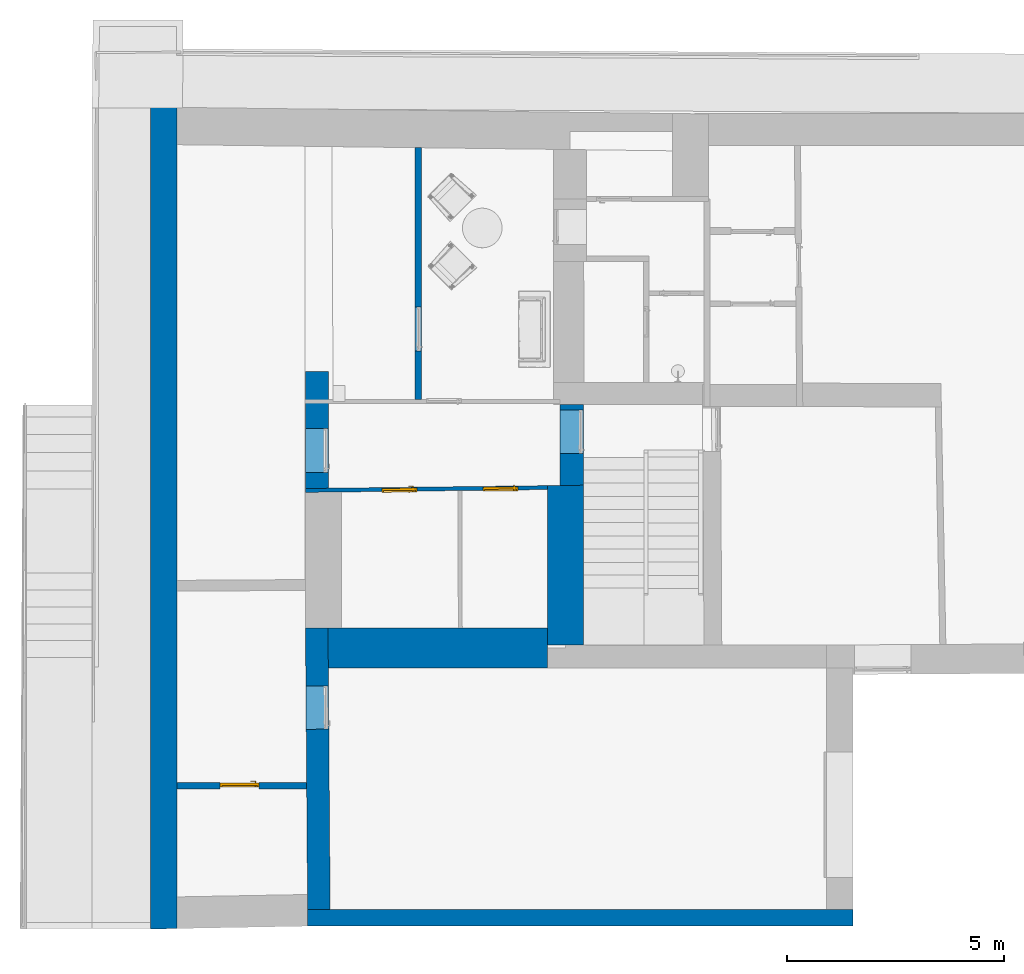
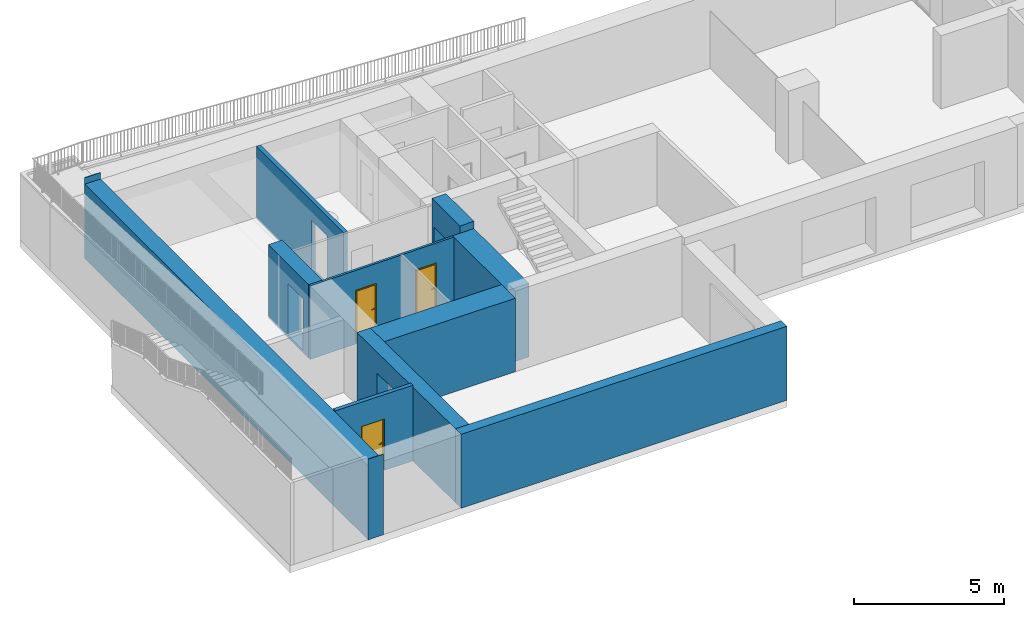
# One storey, part 2 of 17: 10 walls, 3 doors, 9 openings.
"""IFC2X3 building model written with IfcOpenShell, lengths in millimetres."""

import ifcopenshell
import ifcopenshell.guid

model = None  # the IFC model being written
_history = None  # IfcOwnerHistory: only IFC2X3 demands one
_inside = {}  # id of a spatial element -> (the spatial element, [elements in it])
_under = {}  # id of a project, library or spatial element -> (it, [spatial elements below it])
_declared = {}  # id of a project -> (the project, [libraries it declares])
_typed = {}  # id of a type object -> (the type object, [elements of that type])
_made_of = {}  # id of a material, layer set ... -> (it, [elements and type objects made of it])


def new_model(schema):
    """Start an empty IFC model of exactly this schema.

    Asked for "IFC4X3", IfcOpenShell would pick the latest addendum, in which some entities
    have other attributes; the version numbers below select the first issue.
    IFC2X3 requires an IfcOwnerHistory on every rooted entity: one is made here for all.
    """
    global model, _history
    if schema == "IFC4X3":
        model = ifcopenshell.file(schema_version=(4, 3, 0, 0))
    else:
        model = ifcopenshell.file(schema=schema)
    _inside.clear()
    _under.clear()
    _declared.clear()
    _typed.clear()
    _made_of.clear()
    _history = None
    if model.schema == "IFC2X3":
        org = make("IfcOrganization", Name="unknown")
        user = make(
            "IfcPersonAndOrganization",
            ThePerson=make("IfcPerson", FamilyName="unknown"),
            TheOrganization=org,
        )
        app = make(
            "IfcApplication",
            ApplicationDeveloper=org,
            Version="unknown",
            ApplicationFullName="unknown",
            ApplicationIdentifier="unknown",
        )
        _history = make(
            "IfcOwnerHistory",
            OwningUser=user,
            OwningApplication=app,
            ChangeAction="ADDED",
            CreationDate=0,
        )
    return model


def make(cls, **values):
    """One entity of the class cls with the attributes given. An attribute that is None is left unset."""
    return model.create_entity(
        cls, **{name: value for name, value in values.items() if value is not None}
    )


def entity(cls, *values):
    """Any entity or typed value of the class cls, its attributes in the order of the schema. None: left unset."""
    e = model.create_entity(cls)
    for i, value in enumerate(values):
        if value is not None:
            e[i] = value
    return e


def rooted(cls, **values):
    """An entity with a GlobalId (a new one), such as an element, a storey or a relation."""
    return make(cls, GlobalId=ifcopenshell.guid.new(), OwnerHistory=_history, **values)


def si_unit(unit_type, name, prefix=None):
    """IfcSIUnit, for example si_unit("LENGTHUNIT", "METRE", prefix="MILLI")."""
    return make("IfcSIUnit", UnitType=unit_type, Prefix=prefix, Name=name)


def converted_unit(unit_type, name, factor, base, dimensions=None, offset=None):
    """IfcConversionBasedUnit, such as the inch: factor (a typed value) times the base unit."""
    return make(
        "IfcConversionBasedUnit"
        if offset is None
        else "IfcConversionBasedUnitWithOffset",
        ConversionOffset=offset,
        Dimensions=None
        if dimensions is None
        else entity("IfcDimensionalExponents", *dimensions),
        UnitType=unit_type,
        Name=name,
        ConversionFactor=make(
            "IfcMeasureWithUnit", ValueComponent=factor, UnitComponent=base
        ),
    )


def derived_unit(unit_type, elements):
    """IfcDerivedUnit: a product of units, each with its exponent."""
    return make(
        "IfcDerivedUnit",
        Elements=[
            make("IfcDerivedUnitElement", Unit=unit, Exponent=power)
            for unit, power in elements
        ],
        UnitType=unit_type,
    )


def assignment(units):
    """IfcUnitAssignment: the units of a project."""
    return None if units is None else make("IfcUnitAssignment", Units=units)


def point(xyz):
    """IfcCartesianPoint."""
    return None if xyz is None else make("IfcCartesianPoint", Coordinates=xyz)


def direction(xyz):
    """IfcDirection."""
    return None if xyz is None else make("IfcDirection", DirectionRatios=xyz)


def frame(location, z_axis=None, x_axis=None):
    """IfcAxis2Placement3D, a coordinate frame: its origin and axes. An axis left out is left unset."""
    return make(
        "IfcAxis2Placement3D",
        Location=point(location),
        Axis=direction(z_axis),
        RefDirection=direction(x_axis),
    )


def frame_2d(location, x_axis=None):
    """IfcAxis2Placement2D, a coordinate frame in the plane: its origin and x axis."""
    return make(
        "IfcAxis2Placement2D", Location=point(location), RefDirection=direction(x_axis)
    )


def origin():
    """The frame at (0, 0, 0) with its axes left unset."""
    return frame((0.0, 0.0, 0.0))


def place(relative_to, where):
    """IfcLocalPlacement: puts the frame where relative to a parent placement (None: the world)."""
    return make(
        "IfcLocalPlacement", PlacementRelTo=relative_to, RelativePlacement=where
    )


def context(
    kind, dimensions, precision=None, world=None, true_north=None, identifier=None
):
    """IfcGeometricRepresentationContext, for example the 3D "Model" context."""
    return make(
        "IfcGeometricRepresentationContext",
        ContextIdentifier=identifier,
        ContextType=kind,
        CoordinateSpaceDimension=dimensions,
        Precision=precision,
        WorldCoordinateSystem=world,
        TrueNorth=true_north,
    )


def subcontext(parent, identifier, kind, view, scale=None):
    """IfcGeometricRepresentationSubContext, for example "Body" below "Model"."""
    return make(
        "IfcGeometricRepresentationSubContext",
        ContextIdentifier=identifier,
        ContextType=kind,
        ParentContext=parent,
        TargetScale=scale,
        TargetView=view,
    )


def project(units=None, contexts=None):
    """IfcProject with its units and contexts."""
    return rooted(
        "IfcProject",
        Name="project",
        RepresentationContexts=contexts,
        UnitsInContext=assignment(units),
    )


def spatial(cls, under=None, at=None, **own):
    """A site, building, storey or space (cls), placed at a placement, below another one or the project."""
    s = rooted(cls, ObjectPlacement=at, **own)
    if under is not None:
        _under.setdefault(under.id(), (under, []))[1].append(s)
    return s


def polyline(points):
    """IfcPolyline through the points."""
    return make("IfcPolyline", Points=[point(p) for p in points])


def profile(cls, at=None, kind="AREA", **sizes):
    """A parametric profile (cls). Its sizes go by their IFC names, for example OverallWidth=200.0."""
    return make(cls, ProfileType=kind, Position=at, **sizes)


def rectangle(**sizes):
    """IfcRectangleProfileDef."""
    return profile("IfcRectangleProfileDef", **sizes)


def outline(outer, holes=None, kind="AREA"):
    """IfcArbitraryClosedProfileDef: a profile drawn as a closed curve; with holes, ...WithVoids."""
    if holes is None:
        return make("IfcArbitraryClosedProfileDef", ProfileType=kind, OuterCurve=outer)
    return make(
        "IfcArbitraryProfileDefWithVoids",
        ProfileType=kind,
        OuterCurve=outer,
        InnerCurves=holes,
    )


def extrude(swept, where, along, depth):
    """IfcExtrudedAreaSolid: the profile swept, set in the frame where, extruded along a direction by depth."""
    return make(
        "IfcExtrudedAreaSolid",
        SweptArea=swept,
        Position=where,
        ExtrudedDirection=direction(along),
        Depth=depth,
    )


def clip(a, b, op="DIFFERENCE"):
    """IfcBooleanClippingResult: the solid a cut by the half space b."""
    return make(
        "IfcBooleanClippingResult", Operator=op, FirstOperand=a, SecondOperand=b
    )


def bounded_halfspace(plane, agree, where, boundary):
    """IfcPolygonalBoundedHalfSpace: a half space limited to a polygon's prism."""
    return make(
        "IfcPolygonalBoundedHalfSpace",
        BaseSurface=make("IfcPlane", Position=plane),
        AgreementFlag=agree,
        Position=where,
        PolygonalBoundary=boundary,
    )


def faces_of(points, faces, orient=None, outer=None):
    """IfcFace entities. A face is a list of loops; a loop is a list of indices into points, from 0.

    orient and outer hold one flag for each loop. By default every Orientation is true, the
    first loop of a face is its IfcFaceOuterBound and the others are IfcFaceBound.
    """
    made = []
    for i, loops in enumerate(faces):
        bounds = []
        for j, loop in enumerate(loops):
            is_outer = j == 0 if outer is None else outer[i][j]
            bounds.append(
                make(
                    "IfcFaceOuterBound" if is_outer else "IfcFaceBound",
                    Bound=make("IfcPolyLoop", Polygon=[points[k] for k in loop]),
                    Orientation=True if orient is None else orient[i][j],
                )
            )
        made.append(make("IfcFace", Bounds=bounds))
    return made


def faceted_brep(points, faces, orient=None, outer=None, voids=None):
    """IfcFacetedBrep: a solid bounded by flat faces; with voids (closed shells), ...WithVoids."""
    shared = [point(p) for p in points]
    hull = make("IfcClosedShell", CfsFaces=faces_of(shared, faces, orient, outer))
    if voids is None:
        return make("IfcFacetedBrep", Outer=hull)
    return make(
        "IfcFacetedBrepWithVoids",
        Outer=hull,
        Voids=[
            make(cls, CfsFaces=faces_of(shared, fs, o, b)) for cls, fs, o, b in voids
        ],
    )


def shape(context_of_items, identifier, shape_type, items):
    """IfcShapeRepresentation: the items that make up one representation, for example the "Body"."""
    return make(
        "IfcShapeRepresentation",
        ContextOfItems=context_of_items,
        RepresentationIdentifier=identifier,
        RepresentationType=shape_type,
        Items=items,
    )


def source(mapping_origin, context_of_items, identifier, shape_type, items):
    """IfcRepresentationMap: a shape defined once, which mapped items show again and again."""
    return make(
        "IfcRepresentationMap",
        MappingOrigin=mapping_origin,
        MappedRepresentation=shape(context_of_items, identifier, shape_type, items),
    )


def transform(
    local_origin,
    x_axis=None,
    y_axis=None,
    z_axis=None,
    scale=None,
    scale2=None,
    scale3=None,
    uniform=True,
):
    """IfcCartesianTransformationOperator3D, or its non-uniform kind. x_axis, y_axis, z_axis: its Axis1, 2, 3."""
    if uniform:
        return make(
            "IfcCartesianTransformationOperator3D",
            Axis1=direction(x_axis),
            Axis2=direction(y_axis),
            LocalOrigin=point(local_origin),
            Scale=scale,
            Axis3=direction(z_axis),
        )
    return make(
        "IfcCartesianTransformationOperator3DnonUniform",
        Axis1=direction(x_axis),
        Axis2=direction(y_axis),
        LocalOrigin=point(local_origin),
        Scale=scale,
        Axis3=direction(z_axis),
        Scale2=scale2,
        Scale3=scale3,
    )


def mapped(mapping_source, mapping_target):
    """IfcMappedItem: shows the shape of a source again, moved by a transform."""
    return make(
        "IfcMappedItem", MappingSource=mapping_source, MappingTarget=mapping_target
    )


def material(Name=None, Category=None):
    """IfcMaterial."""
    return make("IfcMaterial", Name=Name, Category=Category)


def material_list(materials):
    """IfcMaterialList."""
    return make("IfcMaterialList", Materials=materials)


def layer(
    of_material, thickness, ventilated=None, Name=None, Category=None, Priority=None
):
    """IfcMaterialLayer: one layer of a wall or slab, of a material (None: an air gap)."""
    return make(
        "IfcMaterialLayer",
        Material=of_material,
        LayerThickness=thickness,
        IsVentilated=ventilated,
        Name=Name,
        Category=Category,
        Priority=Priority,
    )


def layer_set(layers, Name=None):
    """IfcMaterialLayerSet."""
    return make("IfcMaterialLayerSet", MaterialLayers=layers, LayerSetName=Name)


def layer_usage(for_layer_set, set_direction, sense, offset, extent=None):
    """IfcMaterialLayerSetUsage: how a layer set lies in its element."""
    return make(
        "IfcMaterialLayerSetUsage",
        ForLayerSet=for_layer_set,
        LayerSetDirection=set_direction,
        DirectionSense=sense,
        OffsetFromReferenceLine=offset,
        ReferenceExtent=extent,
    )


def made_of(thing, what):
    """Note that an element or type object is made of a material, layer set ...; save() writes the relation."""
    if what is not None:
        _made_of.setdefault(what.id(), (what, []))[1].append(thing)
    return thing


def type_object(cls, material=None, **own):
    """A type object (cls), such as IfcWallType, which elements share."""
    return made_of(rooted(cls, **own), material)


def type_shapes(of_type, sources):
    """Give a type object the sources (RepresentationMaps) that its elements show as mapped items."""
    of_type.RepresentationMaps = sources


def element(
    cls,
    number,
    at=None,
    inside=None,
    cuts=None,
    type_object=None,
    material=None,
    context=None,
    identifier="Body",
    shape_type=None,
    held_by="IfcProductDefinitionShape",
    body=None,
    shapes=None,
    **own,
):
    """One element of the class cls, such as IfcWall. Its Tag is "e" and its number.

    at: its placement. inside: the storey or other place that contains it. cuts: it is an
    opening in that element (IfcRelVoidsElement). A single representation is given by context,
    identifier, shape_type and body (its items); several are given by shapes. held_by: the class
    of the entity that holds the representations. save() writes the other relations.
    """
    e = rooted(cls, Tag="e%d" % number, ObjectPlacement=at, **own)
    if body is not None:
        shapes = [shape(context, identifier, shape_type, body)]
    if shapes is not None:
        e.Representation = make(held_by, Representations=shapes)
    if inside is not None:
        _inside.setdefault(inside.id(), (inside, []))[1].append(e)
    if cuts is not None:
        rooted(
            "IfcRelVoidsElement", RelatingBuildingElement=cuts, RelatedOpeningElement=e
        )
    if type_object is not None:
        _typed.setdefault(type_object.id(), (type_object, []))[1].append(e)
    return made_of(e, material)


def fill(opening, filler):
    """IfcRelFillsElement: the door or window that sits in an opening."""
    return rooted(
        "IfcRelFillsElement",
        RelatingOpeningElement=opening,
        RelatedBuildingElement=filler,
    )


def aggregate(whole, parts):
    """IfcRelAggregates: a whole, such as a stair, and the parts it consists of."""
    return rooted("IfcRelAggregates", RelatingObject=whole, RelatedObjects=parts)


def save(model, path):
    """Write the relations noted so far, then the file.

    IfcRelAggregates (storeys below a building ...), IfcRelContainedInSpatialStructure (elements
    in a storey), IfcRelDefinesByType, IfcRelAssociatesMaterial and IfcRelDeclares: one each for
    every whole, place, type object, material and project.
    """
    for whole, parts in _under.values():
        aggregate(whole, parts)
    for where, things in _inside.values():
        rooted(
            "IfcRelContainedInSpatialStructure",
            RelatedElements=things,
            RelatingStructure=where,
        )
    for kind, things in _typed.values():
        rooted("IfcRelDefinesByType", RelatedObjects=things, RelatingType=kind)
    for what, things in _made_of.values():
        rooted("IfcRelAssociatesMaterial", RelatedObjects=things, RelatingMaterial=what)
    for by, libraries in _declared.values():
        rooted("IfcRelDeclares", RelatingContext=by, RelatedDefinitions=libraries)
    model.write(path)


model = new_model("IFC2X3")

# Units and contexts
model_context = context("Model", 3, precision=0.01, world=origin(), true_north=direction((6.12303176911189e-17, 1.0)))
context_of_model = context(None, 3, precision=0.01, world=origin(), true_north=direction((6.12303176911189e-17, 1.0)))
body_context = subcontext(model_context, "Body", "Model", "MODEL_VIEW")
ifc_project = project(units=[si_unit("LENGTHUNIT", "METRE", prefix="MILLI"), si_unit("AREAUNIT", "SQUARE_METRE"), si_unit("VOLUMEUNIT", "CUBIC_METRE"), converted_unit("PLANEANGLEUNIT", "DEGREE", entity("IfcRatioMeasure", 0.0174532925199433), si_unit("PLANEANGLEUNIT", "RADIAN"), dimensions=[0, 0, 0, 0, 0, 0, 0]), si_unit("MASSUNIT", "GRAM", prefix="KILO"), derived_unit("MASSDENSITYUNIT", [(si_unit("MASSUNIT", "GRAM", prefix="KILO"), 1), (si_unit("LENGTHUNIT", "METRE"), -3)]), si_unit("TIMEUNIT", "SECOND"), si_unit("FREQUENCYUNIT", "HERTZ"), si_unit("THERMODYNAMICTEMPERATUREUNIT", "DEGREE_CELSIUS"), derived_unit("THERMALTRANSMITTANCEUNIT", [(si_unit("MASSUNIT", "GRAM", prefix="KILO"), 1), (si_unit("THERMODYNAMICTEMPERATUREUNIT", "KELVIN"), -1), (si_unit("TIMEUNIT", "SECOND"), -3)]), derived_unit("VOLUMETRICFLOWRATEUNIT", [(si_unit("LENGTHUNIT", "METRE"), 3), (si_unit("TIMEUNIT", "SECOND"), -1)]), si_unit("ELECTRICCURRENTUNIT", "AMPERE"), si_unit("ELECTRICVOLTAGEUNIT", "VOLT"), si_unit("POWERUNIT", "WATT"), si_unit("FORCEUNIT", "NEWTON", prefix="KILO"), si_unit("ILLUMINANCEUNIT", "LUX"), si_unit("LUMINOUSFLUXUNIT", "LUMEN"), si_unit("LUMINOUSINTENSITYUNIT", "CANDELA"), derived_unit("USERDEFINED", [(si_unit("MASSUNIT", "GRAM", prefix="KILO"), -1), (si_unit("LENGTHUNIT", "METRE"), -2), (si_unit("TIMEUNIT", "SECOND"), 3), (si_unit("LUMINOUSFLUXUNIT", "LUMEN"), 1)]), derived_unit("LINEARVELOCITYUNIT", [(si_unit("LENGTHUNIT", "METRE"), 1), (si_unit("TIMEUNIT", "SECOND"), -1)]), si_unit("PRESSUREUNIT", "PASCAL"), derived_unit("USERDEFINED", [(si_unit("LENGTHUNIT", "METRE"), -2), (si_unit("MASSUNIT", "GRAM", prefix="KILO"), 1), (si_unit("TIMEUNIT", "SECOND"), -2)])], contexts=[model_context, context_of_model])

# Site, building, storey
site_placement = place(None, frame((121442.264707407, 135347.995453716, -1800.0)))
site = spatial("IfcSite", under=ifc_project, at=site_placement, Name="Surface", CompositionType="ELEMENT")
building_placement = place(site_placement, origin())
building = spatial("IfcBuilding", under=site, at=building_placement, CompositionType="ELEMENT")
storey_placement = place(building_placement, frame((0.0, 0.0, -1490.0)))
storey = spatial("IfcBuildingStorey", under=building, at=storey_placement, Name="Kelder", CompositionType="ELEMENT", Elevation=-1489.99999999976)

# Wall, openings
ifc_material_1 = material(Name="__Betoonelement")
ifc_layer_1 = layer(ifc_material_1, 540.0)
ifc_layer_set_1 = layer_set([ifc_layer_1], Name="Basic Wall:54_Betoon 2")
ifc_layer_usage_1 = layer_usage(ifc_layer_set_1, "AXIS2", "POSITIVE", -270.0)
wall_type_1 = type_object("IfcWallType", Name="Basic Wall:54_Betoon 2", PredefinedType="STANDARD", material=ifc_layer_set_1)
wall_1_placement = place(storey_placement, frame((-109569.148081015, -123410.742455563, 0.0), z_axis=(0.0, 0.0, 1.0), x_axis=(0.0, 1.0, 0.0)))
wall_1 = element("IfcWallStandardCase", 1, at=wall_1_placement, inside=storey, type_object=wall_type_1, material=ifc_layer_usage_1, Name="Basic Wall:54_Betoon 2", ObjectType="Basic Wall:54_Betoon 2", context=body_context, shape_type="SweptSolid", body=[
    extrude(outline(polyline([(1869.99400321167, -270.0), (1869.99400321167, 0.0), (1869.99400321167, 270.0), (0.0, 270.0), (6.40227349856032, -270.0), (1869.99400321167, -270.0)])), origin(), (0.0, 0.0, 1.0), 3290.0),
])
opening_1_placement = place(wall_1_placement, origin())
element("IfcOpeningElement", 2, at=opening_1_placement, cuts=wall_1, Name="Basic Wall:54_Betoon 2", ObjectType="Opening", context=body_context, shape_type="SweptSolid", body=[
    extrude(rectangle(XDim=2099.99999999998, YDim=89.9999999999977, at=frame_2d((0.0, 0.0), x_axis=(0.0, 1.0))), frame((-56.5315271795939, 1242.36034339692, 1140.0), z_axis=(-0.0118552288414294, 0.999929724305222, 0.0), x_axis=(-0.999929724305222, -0.0118552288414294, 0.0)), (0.0, 0.0, 1.0), 809.999999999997),
])
opening_2_placement = place(wall_1_placement, frame((1734.99400321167, 270.0, 90.0)))
element("IfcOpeningElement", 3, at=opening_2_placement, cuts=wall_1, Name="sma_D01:1000 x 2100mm SU-9 Tuletokke:1", ObjectType="Opening", context=body_context, shape_type="SweptSolid", body=[
    extrude(rectangle(XDim=2099.99999999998, YDim=1000.0, at=frame_2d((1049.99999999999, 500.0), x_axis=(1.0, 0.0))), frame((0.0, 0.0, 0.0), z_axis=(0.0, -1.0, 0.0), x_axis=(0.0, 0.0, 1.0)), (0.0, 0.0, 1.0), 540.0),
])

# Wall
ifc_layer_2 = layer(ifc_material_1, 380.0)
ifc_layer_set_2 = layer_set([ifc_layer_2], Name="Basic Wall:38_Betoon 2")
ifc_layer_usage_2 = layer_usage(ifc_layer_set_2, "AXIS2", "NEGATIVE", 190.0)
wall_type_2 = type_object("IfcWallType", Name="Basic Wall:38_Betoon 2", PredefinedType="STANDARD", material=ifc_layer_set_2)
wall_2_placement = place(storey_placement, frame((-103082.949351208, -133373.363075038, -20.0), z_axis=(0.0, 0.0, 1.0), x_axis=(-0.999999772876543, -0.000673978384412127, 0.0)))
element("IfcWallStandardCase", 4, at=wall_2_placement, inside=storey, type_object=wall_type_2, material=ifc_layer_usage_2, Name="Basic Wall:38_Betoon 2", ObjectType="Basic Wall:38_Betoon 2", context=body_context, shape_type="Clipping", body=[
    clip(extrude(outline(polyline([(12580.3150284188, -190.0), (12577.6764720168, 190.0), (0.256111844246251, 190.0), (0.0, -190.0), (620.000140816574, -190.0), (12060.3024931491, -190.0), (12580.3150284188, -190.0)])), origin(), (0.0, 0.0, 1.0), 3017.0), bounded_halfspace(frame((277.392540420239, -190.0, 3017.0), z_axis=(0.0, 0.0, -1.0), x_axis=(0.000673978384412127, 0.999999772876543, 0.0)), True, frame((277.392540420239, -190.0, 3017.0)), polyline([(0.0, 0.0), (342.607600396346, 0.0), (11782.9099527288, 0.0), (12302.9224879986, 0.0), (12301.8652691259, 152.258701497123), (0.108207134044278, 160.549821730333), (0.0, 0.0)]))),
])

# Wall, opening
ifc_layer_3 = layer(ifc_material_1, 520.0)
ifc_layer_set_3 = layer_set([ifc_layer_3], Name="Basic Wall:52_Betoon 2")
ifc_layer_usage_3 = layer_usage(ifc_layer_set_3, "AXIS2", "NEGATIVE", 260.0)
wall_type_3 = type_object("IfcWallType", Name="Basic Wall:52_Betoon 2", PredefinedType="STANDARD", material=ifc_layer_set_3)
wall_3_placement = place(storey_placement, frame((-115403.369617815, -133193.472015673, -20.0), z_axis=(0.0, 0.0, 1.0), x_axis=(-0.00761736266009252, 0.999970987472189, 0.0)))
wall_3 = element("IfcWallStandardCase", 5, at=wall_3_placement, inside=storey, type_object=wall_type_3, material=ifc_layer_usage_3, Name="Basic Wall:52_Betoon 2", ObjectType="Basic Wall:52_Betoon 2", context=body_context, shape_type="Clipping", body=[
    clip(extrude(outline(polyline([(6497.37636983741, -260.0), (6501.33751334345, 260.0), (3.61065612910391, 260.0), (0.0, -260.0), (6497.37636983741, -260.0)])), origin(), (0.0, 0.0, 1.0), 3017.0), bounded_halfspace(frame((0.0, -260.0, 3017.0), z_axis=(0.0, 0.0, -1.0), x_axis=(-0.999970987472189, 0.00761736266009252, 0.0)), True, frame((0.0, -260.0, 3017.0)), polyline([(0.0, 0.0), (5577.34967753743, 0.0), (6497.37636983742, 0.0), (6501.33751334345, 520.0), (353.911781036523, 520.0), (3.610656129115, 520.0), (0.0, 0.0)]))),
])
opening_3_placement = place(wall_3_placement, frame((5162.29273596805, 260.0, 60.0)))
element("IfcOpeningElement", 6, at=opening_3_placement, cuts=wall_3, Name="sma_D01:1000 x 2100mm SU-9 Tuletokke:1", ObjectType="Opening", context=body_context, shape_type="SweptSolid", body=[
    extrude(rectangle(XDim=2099.99999999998, YDim=1000.0, at=frame_2d((1049.99999999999, 500.0), x_axis=(1.0, 0.0))), frame((0.0, 0.0, 0.0), z_axis=(0.0, -1.0, 0.0), x_axis=(0.0, 0.0, 1.0)), (0.0, 0.0, 1.0), 520.0),
])

# Wall
ifc_layer_4 = layer(ifc_material_1, 610.0)
ifc_layer_set_4 = layer_set([ifc_layer_4], Name="Basic Wall:61_Betoon 3")
ifc_layer_usage_4 = layer_usage(ifc_layer_set_4, "AXIS2", "NEGATIVE", 305.0)
wall_type_4 = type_object("IfcWallType", Name="Basic Wall:61_Betoon 3", PredefinedType="STANDARD", material=ifc_layer_set_4)
wall_4_placement = place(storey_placement, frame((-118984.731278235, -133638.668503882, 0.0), z_axis=(0.0, 0.0, 1.0), x_axis=(0.0, 1.0, 0.0)))
element("IfcWallStandardCase", 7, at=wall_4_placement, inside=storey, type_object=wall_type_4, material=ifc_layer_usage_4, Name="Basic Wall:61_Betoon 3", ObjectType="Basic Wall:61_Betoon 3", context=body_context, shape_type="Clipping", body=[
    clip(extrude(outline(polyline([(18946.3758896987, -305.0), (18953.945639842, 305.0), (0.0, 305.0), (11.2773891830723, -305.0), (741.402131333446, -305.0), (7789.89576227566, -305.0), (7914.8982809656, -305.0), (18086.3096748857, -305.0), (18946.3758896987, -305.0)])), origin(), (0.0, 0.0, 1.0), 3290.0), bounded_halfspace(frame((20.6730501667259, 305.0, 3030.0), z_axis=(0.0, 0.0, -1.0), x_axis=(-0.00563304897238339, -0.999984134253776, 0.0)), True, frame((20.6730501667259, 305.0, 3030.0), z_axis=(0.0, 0.0, -1.0), x_axis=(-0.00563304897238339, -0.999984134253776, 0.0)), polyline([(0.0, 0.0), (-106.504398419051, -18906.760649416), (503.505279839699, -18906.760649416), (609.990321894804, -3.43615987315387), (0.0, 0.0)]))),
])

# Wall, opening
ifc_layer_5 = layer(ifc_material_1, 830.0)
ifc_layer_set_5 = layer_set([ifc_layer_5], Name="Basic Wall:83_Betoon 5")
ifc_layer_usage_5 = layer_usage(ifc_layer_set_5, "AXIS2", "POSITIVE", -415.0)
wall_type_5 = type_object("IfcWallType", Name="Basic Wall:83_Betoon 5", PredefinedType="STANDARD", material=ifc_layer_set_5)
wall_5_placement = place(storey_placement, frame((-109714.148081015, -127094.303636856, 0.0), z_axis=(0.0, 0.0, 1.0), x_axis=(0.0, 1.0, 0.0)))
wall_5 = element("IfcWallStandardCase", 8, at=wall_5_placement, inside=storey, type_object=wall_type_5, material=ifc_layer_usage_5, Name="Basic Wall:83_Betoon 5", ObjectType="Basic Wall:83_Betoon 5", context=body_context, shape_type="Clipping", body=[
    clip(extrude(outline(polyline([(3689.96345479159, -415.0), (3683.56118129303, 125.0), (3680.12292330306, 415.0), (3590.11659804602, 415.0), (400.0, 415.0), (0.0, 415.0), (0.0, -415.0), (3689.96345479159, -415.0)])), origin(), (0.0, 0.0, 1.0), 2997.0), bounded_halfspace(frame((3687.66493119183, -221.130940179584, 2997.0), z_axis=(0.0, 0.0, -1.0), x_axis=(-1.0, 0.0, 0.0)), True, frame((3687.66493119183, -221.130940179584, 2997.0)), polyline([(0.0, 0.0), (-7.54200788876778, 636.130940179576), (-97.5483331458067, 636.130940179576), (-3287.66493119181, 636.130940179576), (-3687.66493119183, 636.130940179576), (-3687.66493119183, 0.0), (0.0, 0.0)]))),
])
opening_4_placement = place(wall_5_placement, origin())
element("IfcOpeningElement", 9, at=opening_4_placement, cuts=wall_5, Name="Basic Wall:83_Betoon 5", ObjectType="Recess", context=body_context, shape_type="SweptSolid", body=[
    extrude(rectangle(XDim=2099.99999999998, YDim=89.9999999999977, at=frame_2d((0.0, 0.0), x_axis=(0.0, 1.0))), frame((3627.02965411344, 1097.36034339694, 1140.0), z_axis=(-0.0118552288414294, 0.999929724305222, 0.0), x_axis=(-0.999929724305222, -0.0118552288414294, 0.0)), (0.0, 0.0, 1.0), 809.999999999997),
])

# Wall, openings, doors
ifc_layer_6 = layer(ifc_material_1, 90.0)
ifc_layer_set_6 = layer_set([ifc_layer_6], Name="Basic Wall:9_Betoon 2")
ifc_layer_usage_6 = layer_usage(ifc_layer_set_6, "AXIS2", "POSITIVE", -45.0)
wall_type_6 = type_object("IfcWallType", Name="Basic Wall:9_Betoon 2", PredefinedType="STANDARD", material=ifc_layer_set_6)
wall_6_placement = place(storey_placement, frame((-110128.614595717, -123459.177551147, 0.0), z_axis=(0.0, 0.0, 1.0), x_axis=(-0.999929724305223, -0.0118552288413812, 0.0)))
wall_6 = element("IfcWallStandardCase", 10, at=wall_6_placement, inside=storey, type_object=wall_type_6, material=ifc_layer_usage_6, Name="Basic Wall:9_Betoon 2", ObjectType="Basic Wall:9_Betoon 2", context=body_context, shape_type="Clipping", body=[
    clip(extrude(outline(polyline([(5585.94629493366, -45.0), (5587.01334051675, 45.0), (2024.90147354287, 45.0), (1979.89982463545, 45.0), (1.06704558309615, 45.0), (0.0, -45.0), (5055.90904619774, -45.0), (5585.94629493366, -45.0)])), origin(), (0.0, 0.0, 1.0), 2997.0), bounded_halfspace(frame((0.0, -45.0, 2997.0), z_axis=(0.0, 0.0, -1.0), x_axis=(0.0118552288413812, 0.999929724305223, 0.0)), True, frame((0.0, -45.0, 2997.0)), polyline([(0.0, 0.0), (5055.90904619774, 0.0), (5585.94629493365, 0.0), (5587.01334051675, 90.0), (4756.95500759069, 90.0), (1.0670455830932, 90.0), (0.0, 0.0)]))),
])
opening_5_placement = place(wall_6_placement, frame((1492.9418229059, 45.0, 90.0)))
opening_5 = element("IfcOpeningElement", 11, at=opening_5_placement, cuts=wall_6, Name="sma_D01:810 x 2110_SU-01 Siseuks:1", ObjectType="Opening", context=body_context, shape_type="SweptSolid", body=[
    extrude(rectangle(XDim=2099.99999999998, YDim=810.0, at=frame_2d((1049.99999999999, 405.0), x_axis=(1.0, 0.0))), frame((0.0, 0.0, 0.0), z_axis=(0.0, -1.0, 0.0), x_axis=(0.0, 0.0, 1.0)), (0.0, 0.0, 1.0), 90.0),
])
opening_6_placement = place(wall_6_placement, frame((3822.94182290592, 45.0, 90.0)))
opening_6 = element("IfcOpeningElement", 12, at=opening_6_placement, cuts=wall_6, Name="sma_D01:810 x 2110_SU-01 Siseuks:1", ObjectType="Opening", context=body_context, shape_type="SweptSolid", body=[
    extrude(rectangle(XDim=2099.99999999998, YDim=810.0, at=frame_2d((1049.99999999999, 405.0), x_axis=(1.0, 0.0))), frame((0.0, 0.0, 0.0), z_axis=(0.0, -1.0, 0.0), x_axis=(0.0, 0.0, 1.0)), (0.0, 0.0, 1.0), 90.0),
])
ifc_material_2 = material(Name="Metal - Aluminium")
ifc_material_3 = material(Name="Door - Panel_valge")
ifc_material_list_1 = material_list([ifc_material_2, ifc_material_3])
ifc_material_list_2 = material_list([ifc_material_2, ifc_material_3])
door_style_1 = type_object("IfcDoorStyle", Name="810 x 2110_SU-01 Siseuks", ConstructionType="NOTDEFINED", OperationType="SINGLE_SWING_LEFT", ParameterTakesPrecedence=False, Sizeable=False, material=ifc_material_list_2)
shared_shape_1 = source(origin(), body_context, "Body", "Brep", [
    faceted_brep([(710.0, -20.0, 1112.5), (615.0, -20.0, 1112.5), (615.0, -25.0, 1112.5), (735.0, -25.0, 1112.5), (735.0, 18.0, 1112.5), (710.0, 18.0, 1112.5), (710.0, -20.0, 1087.5), (710.0, 18.0, 1087.5), (735.0, 18.0, 1087.5), (735.0, -25.0, 1087.5), (615.0, -25.0, 1087.5), (615.0, -20.0, 1087.5)], [[[0, 1, 2, 3, 4, 5]], [[6, 7, 8, 9, 10, 11]], [[5, 7, 6, 0]], [[4, 8, 7, 5]], [[3, 9, 8, 4]], [[2, 10, 9, 3]], [[1, 11, 10, 2]], [[0, 6, 11, 1]]]),
    faceted_brep([(697.500000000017, 18.0, 1137.5), (747.500000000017, 18.0, 1137.5), (747.500000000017, 20.0, 1137.5), (697.500000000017, 20.0, 1137.5), (697.500000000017, 18.0, 1017.5), (697.500000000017, 20.0, 1017.5), (747.500000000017, 20.0, 1017.5), (747.500000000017, 18.0, 1017.5)], [[[0, 1, 2, 3]], [[4, 5, 6, 7]], [[3, 5, 4, 0]], [[2, 6, 5, 3]], [[1, 7, 6, 2]], [[0, 4, 7, 1]]]),
    faceted_brep([(710.0, 110.0, 1112.5), (710.0, 72.0, 1112.5), (735.0, 72.0, 1112.5), (735.0, 115.0, 1112.5), (615.0, 115.0, 1112.5), (615.0, 110.0, 1112.5), (710.0, 110.0, 1087.5), (615.0, 110.0, 1087.5), (615.0, 115.0, 1087.5), (735.0, 115.0, 1087.5), (735.0, 72.0, 1087.5), (710.0, 72.0, 1087.5)], [[[0, 1, 2, 3, 4, 5]], [[6, 7, 8, 9, 10, 11]], [[1, 0, 6, 11]], [[2, 1, 11, 10]], [[3, 2, 10, 9]], [[4, 3, 9, 8]], [[5, 4, 8, 7]], [[0, 5, 7, 6]]]),
    faceted_brep([(697.500000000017, 72.0, 1137.5), (697.500000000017, 70.0, 1137.5), (747.500000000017, 70.0, 1137.5), (747.500000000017, 72.0, 1137.5), (697.500000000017, 72.0, 1017.5), (747.500000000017, 72.0, 1017.5), (747.500000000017, 70.0, 1017.5), (697.500000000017, 70.0, 1017.5)], [[[0, 1, 2, 3]], [[4, 5, 6, 7]], [[1, 0, 4, 7]], [[2, 1, 7, 6]], [[3, 2, 6, 5]], [[0, 3, 5, 4]]]),
    faceted_brep([(0.0, -20.0, 0.0), (0.0, 70.0, 0.0), (25.0, 70.0, 0.0), (25.0, 20.0, 0.0), (40.0, 20.0, 0.0), (40.0, -20.0, 0.0), (40.0, -20.0, 2060.0), (770.0, -20.0, 2060.0), (770.0, -20.0, 0.0), (810.0, -20.0, 0.0), (810.0, -20.0, 2100.0), (0.0, -20.0, 2100.0), (40.0, 20.0, 2060.0), (25.0, 20.0, 2075.0), (785.0, 20.0, 2075.0), (785.0, 20.0, 0.0), (770.0, 20.0, 0.0), (770.0, 20.0, 2060.0), (25.0, 70.0, 2075.0), (0.0, 70.0, 2100.0), (810.0, 70.0, 2100.0), (810.0, 70.0, 0.0), (785.0, 70.0, 0.0), (785.0, 70.0, 2075.0)], [[[0, 1, 2, 3, 4, 5]], [[5, 6, 7, 8, 9, 10, 11, 0]], [[4, 12, 6, 5]], [[3, 13, 14, 15, 16, 17, 12, 4]], [[2, 18, 13, 3]], [[1, 19, 20, 21, 22, 23, 18, 2]], [[0, 11, 19, 1]], [[10, 9, 21, 20]], [[9, 8, 16, 15, 22, 21]], [[17, 16, 8, 7]], [[23, 22, 15, 14]], [[12, 17, 7, 6]], [[18, 23, 14, 13]], [[11, 10, 20, 19]]]),
    faceted_brep([(785.0, 20.0, 2075.0), (25.0, 20.0, 2075.0), (25.0, 20.0, 20.0), (785.0, 20.0, 20.0), (785.0, 70.0, 2075.0), (785.0, 70.0, 20.0), (25.0, 70.0, 20.0), (25.0, 70.0, 2075.0)], [[[0, 1, 2, 3]], [[4, 5, 6, 7]], [[3, 5, 4, 0]], [[2, 6, 5, 3]], [[1, 7, 6, 2]], [[0, 4, 7, 1]]]),
    faceted_brep([(40.0, -20.0, 30.0), (40.0, 20.0, 30.0), (40.0, 20.0, 20.0), (40.0, 20.0, 0.0), (40.0, -20.0, 0.0), (770.0, -20.0, 30.0), (770.0, -20.0, 0.0), (770.0, 20.0, 0.0), (770.0, 20.0, 20.0), (770.0, 20.0, 30.0), (25.0, 20.0, 0.0), (25.0, 70.0, 0.0), (785.0, 70.0, 0.0), (785.0, 20.0, 0.0), (25.0, 70.0, 20.0), (25.0, 20.0, 20.0), (785.0, 70.0, 20.0), (785.0, 20.0, 20.0)], [[[0, 1, 2, 3, 4]], [[5, 6, 7, 8, 9]], [[4, 6, 5, 0]], [[3, 10, 11, 12, 13, 7, 6, 4]], [[9, 8, 2, 1]], [[0, 5, 9, 1]], [[14, 11, 10, 15]], [[16, 17, 13, 12]], [[15, 2, 8, 17, 16, 14]], [[10, 3, 2, 15]], [[14, 16, 12, 11]], [[17, 8, 7, 13]]]),
])
type_shapes(door_style_1, [shared_shape_1])
door_1_placement = place(opening_6_placement, frame((0.0, 0.0, 0.0), z_axis=(0.0, 0.0, 1.0), x_axis=(-1.0, 0.0, 0.0)))
door_1 = element("IfcDoor", 13, at=door_1_placement, inside=storey, type_object=door_style_1, material=ifc_material_list_1, Name="sma_D01:810 x 2110_SU-01 Siseuks", ObjectType="810 x 2110_SU-01 Siseuks", OverallHeight=2099.99999999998, OverallWidth=809.999999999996, context=body_context, shape_type="MappedRepresentation", body=[
    mapped(shared_shape_1, transform((0.0, 0.0, 0.0), scale=1.0)),
])
fill(opening_6, door_1)
ifc_material_list_3 = material_list([ifc_material_2, ifc_material_3])
door_2_placement = place(opening_5_placement, frame((0.0, 0.0, 0.0), z_axis=(0.0, 0.0, 1.0), x_axis=(-1.0, 0.0, 0.0)))
door_2 = element("IfcDoor", 14, at=door_2_placement, inside=storey, type_object=door_style_1, material=ifc_material_list_3, Name="sma_D01:810 x 2110_SU-01 Siseuks", ObjectType="810 x 2110_SU-01 Siseuks", OverallHeight=2099.99999999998, OverallWidth=809.999999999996, context=body_context, shape_type="MappedRepresentation", body=[
    mapped(shared_shape_1, transform((0.0, 0.0, 0.0), scale=1.0)),
])
fill(opening_5, door_2)

# Wall, opening
ifc_layer_7 = layer(ifc_material_1, 530.0)
ifc_layer_set_7 = layer_set([ifc_layer_7], Name="Basic Wall:53_Betoon 3")
ifc_layer_usage_7 = layer_usage(ifc_layer_set_7, "AXIS2", "POSITIVE", -265.0)
wall_type_7 = type_object("IfcWallType", Name="Basic Wall:53_Betoon 3", PredefinedType="STANDARD", material=ifc_layer_set_7)
wall_7_placement = place(storey_placement, frame((-115449.701819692, -120782.264691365, 0.0), z_axis=(0.0, 0.0, 1.0), x_axis=(0.0, -1.0, 0.0)))
wall_7 = element("IfcWallStandardCase", 15, at=wall_7_placement, inside=storey, type_object=wall_type_7, material=ifc_layer_usage_7, Name="Basic Wall:53_Betoon 3", ObjectType="Basic Wall:53_Betoon 3", context=body_context, shape_type="Clipping", body=[
    clip(extrude(outline(polyline([(2698.13869381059, -265.0), (2691.85498093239, 265.0), (0.0, 265.0), (0.0, -265.0), (2698.13869381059, -265.0)])), origin(), (0.0, 0.0, 1.0), 2997.0), bounded_halfspace(frame((0.0, -265.0, 2997.0), z_axis=(0.0, 0.0, -1.0), x_axis=(1.0, 0.0, 0.0)), True, frame((0.0, -265.0, 2997.0)), polyline([(0.0, 0.0), (2698.13869381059, 0.0), (2691.85498093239, 530.0), (0.0, 530.0), (0.0, 0.0)]))),
])
opening_7_placement = place(wall_7_placement, frame((1314.29855837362, -265.0, 90.0)))
element("IfcOpeningElement", 16, at=opening_7_placement, cuts=wall_7, Name="sma_D01:1010 x 2110_SU-03 Siseuks:1", ObjectType="Opening", context=body_context, shape_type="SweptSolid", body=[
    extrude(rectangle(XDim=2099.99999999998, YDim=1010.0, at=frame_2d((1049.99999999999, 505.0), x_axis=(1.0, 0.0))), frame((0.0, 0.0, 0.0), z_axis=(0.0, 1.0, 0.0), x_axis=(0.0, 0.0, 1.0)), (0.0, 0.0, 1.0), 530.0),
])

# Wall
ifc_layer_8 = layer(ifc_material_1, 920.0)
ifc_layer_set_8 = layer_set([ifc_layer_8], Name="Basic Wall:92_Betoon 4")
ifc_layer_usage_8 = layer_usage(ifc_layer_set_8, "AXIS2", "NEGATIVE", 460.0)
wall_type_8 = type_object("IfcWallType", Name="Basic Wall:92_Betoon 4", PredefinedType="STANDARD", material=ifc_layer_set_8)
wall_8_placement = place(storey_placement, frame((-110129.148081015, -127154.303636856, 0.0), z_axis=(0.0, 0.0, 1.0), x_axis=(-1.0, 0.0, 0.0)))
element("IfcWallStandardCase", 17, at=wall_8_placement, inside=storey, type_object=wall_type_8, material=ifc_layer_usage_8, Name="Basic Wall:92_Betoon 4", ObjectType="Basic Wall:92_Betoon 4", context=body_context, shape_type="Clipping", body=[
    clip(extrude(outline(polyline([(5063.72195220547, -460.0), (5056.71377523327, 460.0), (0.0, 460.0), (0.0, -60.0), (0.0, -460.0), (1968.25959125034, -460.0), (2013.25983553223, -460.0), (5063.72195220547, -460.0)])), origin(), (0.0, 0.0, 1.0), 2997.0), bounded_halfspace(frame((0.0, -460.0, 2997.0), z_axis=(0.0, 0.0, -1.0), x_axis=(0.0, 1.0, 0.0)), True, frame((0.0, -460.0, 2997.0)), polyline([(0.0, 0.0), (4755.55373867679, 0.0), (5063.72195220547, 0.0), (5056.71377523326, 920.0), (0.0, 920.0), (0.0, 400.0), (0.0, 0.0)]))),
])

# Wall, opening
ifc_material_4 = material(Name="Plaster")
ifc_layer_9 = layer(ifc_material_4, 10.0)
ifc_material_5 = material(Name="EST. Müüritis. Väikeplokk. Kergkruusplokk")
ifc_layer_10 = layer(ifc_material_5, 130.0)
ifc_layer_11 = layer(ifc_material_4, 10.0)
ifc_layer_set_9 = layer_set([ifc_layer_9, ifc_layer_10, ifc_layer_11], Name="Basic Wall:15_FIBO")
ifc_layer_usage_9 = layer_usage(ifc_layer_set_9, "AXIS2", "NEGATIVE", 75.0)
wall_type_9 = type_object("IfcWallType", Name="Basic Wall:15_FIBO", PredefinedType="STANDARD", material=ifc_layer_set_9)
wall_9_placement = place(storey_placement, frame((-113111.358493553, -121429.923072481, 0.0), z_axis=(0.0, 0.0, 1.0), x_axis=(0.0, 1.0, 0.0)))
wall_9 = element("IfcWallStandardCase", 18, at=wall_9_placement, inside=storey, type_object=wall_type_9, material=ifc_layer_usage_9, Name="Basic Wall:15_FIBO", ObjectType="Basic Wall:15_FIBO", context=body_context, shape_type="SweptSolid", body=[
    extrude(outline(polyline([(5807.53322390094, -75.0), (5809.39463787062, 75.0), (0.0, 75.0), (0.0, -75.0), (5807.53322390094, -75.0)])), origin(), (0.0, 0.0, 1.0), 2990.0),
])
opening_8_placement = place(wall_9_placement, frame((2133.20309958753, 75.0, 90.0)))
element("IfcOpeningElement", 19, at=opening_8_placement, cuts=wall_9, Name="sma_D01:1010 x 2110_SU-03 Siseuks:1", ObjectType="Opening", context=body_context, shape_type="SweptSolid", body=[
    extrude(rectangle(XDim=2099.99999999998, YDim=1010.0, at=frame_2d((1049.99999999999, 505.0), x_axis=(1.0, 0.0))), frame((0.0, 0.0, 0.0), z_axis=(0.0, -1.0, 0.0), x_axis=(0.0, 0.0, 1.0)), (0.0, 0.0, 1.0), 150.0),
])

# Wall, opening, door
ifc_layer_usage_10 = layer_usage(ifc_layer_set_9, "AXIS2", "NEGATIVE", 75.0)
wall_10_placement = place(storey_placement, frame((-115684.627866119, -130328.780984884, 0.0), z_axis=(0.0, 0.0, 1.0), x_axis=(-1.0, 0.0, 0.0)))
wall_10 = element("IfcWallStandardCase", 20, at=wall_10_placement, inside=storey, type_object=wall_type_9, material=ifc_layer_usage_10, Name="Basic Wall:15_FIBO", ObjectType="Basic Wall:15_FIBO", context=body_context, shape_type="SweptSolid", body=[
    extrude(outline(polyline([(1.14263754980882, -75.0), (2995.10341211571, -75.0), (2995.10341211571, 75.0), (0.0, 75.0), (1.14263754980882, -75.0)])), origin(), (0.0, 0.0, 1.0), 3090.0),
])
opening_9_placement = place(wall_10_placement, frame((1995.10341211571, 75.0, 0.0)))
opening_9 = element("IfcOpeningElement", 21, at=opening_9_placement, cuts=wall_10, Name="sma_D01:900 x 2100mm Tuletokke:1", ObjectType="Opening", context=body_context, shape_type="SweptSolid", body=[
    extrude(rectangle(XDim=2099.99999999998, YDim=900.0, at=frame_2d((1049.99999999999, 450.0), x_axis=(1.0, 0.0))), frame((0.0, 0.0, 0.0), z_axis=(0.0, -1.0, 0.0), x_axis=(0.0, 0.0, 1.0)), (0.0, 0.0, 1.0), 150.0),
])
ifc_material_6 = material(Name="Metalli - teras- valge")
ifc_material_list_4 = material_list([ifc_material_2, ifc_material_6])
ifc_material_list_5 = material_list([ifc_material_2, ifc_material_6])
door_style_2 = type_object("IfcDoorStyle", Name="900 x 2100mm Tuletokke", ConstructionType="NOTDEFINED", OperationType="SINGLE_SWING_LEFT", ParameterTakesPrecedence=False, Sizeable=False, material=ifc_material_list_5)
shared_shape_2 = source(origin(), body_context, "Body", "Brep", [
    faceted_brep([(800.0, 40.0, 1112.5), (705.0, 40.0, 1112.5), (705.0, 35.0, 1112.5), (825.0, 35.0, 1112.5), (825.0, 78.0, 1112.5), (800.0, 78.0, 1112.5), (800.0, 40.0, 1087.5), (800.0, 78.0, 1087.5), (825.0, 78.0, 1087.5), (825.0, 35.0, 1087.5), (705.0, 35.0, 1087.5), (705.0, 40.0, 1087.5)], [[[0, 1, 2, 3, 4, 5]], [[6, 7, 8, 9, 10, 11]], [[5, 7, 6, 0]], [[4, 8, 7, 5]], [[3, 9, 8, 4]], [[2, 10, 9, 3]], [[1, 11, 10, 2]], [[0, 6, 11, 1]]]),
    faceted_brep([(787.500000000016, 78.0, 1137.5), (837.500000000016, 78.0, 1137.5), (837.500000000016, 80.0, 1137.5), (787.500000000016, 80.0, 1137.5), (787.500000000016, 78.0, 1017.5), (787.500000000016, 80.0, 1017.5), (837.500000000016, 80.0, 1017.5), (837.500000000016, 78.0, 1017.5)], [[[0, 1, 2, 3]], [[4, 5, 6, 7]], [[3, 5, 4, 0]], [[2, 6, 5, 3]], [[1, 7, 6, 2]], [[0, 4, 7, 1]]]),
    faceted_brep([(800.0, 170.0, 1112.5), (800.0, 132.0, 1112.5), (825.0, 132.0, 1112.5), (825.0, 175.0, 1112.5), (705.0, 175.0, 1112.5), (705.0, 170.0, 1112.5), (800.0, 170.0, 1087.5), (705.0, 170.0, 1087.5), (705.0, 175.0, 1087.5), (825.0, 175.0, 1087.5), (825.0, 132.0, 1087.5), (800.0, 132.0, 1087.5)], [[[0, 1, 2, 3, 4, 5]], [[6, 7, 8, 9, 10, 11]], [[1, 0, 6, 11]], [[2, 1, 11, 10]], [[3, 2, 10, 9]], [[4, 3, 9, 8]], [[5, 4, 8, 7]], [[0, 5, 7, 6]]]),
    faceted_brep([(787.500000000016, 132.0, 1137.5), (787.500000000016, 130.0, 1137.5), (837.500000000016, 130.0, 1137.5), (837.500000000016, 132.0, 1137.5), (787.500000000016, 132.0, 1017.5), (837.500000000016, 132.0, 1017.5), (837.500000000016, 130.0, 1017.5), (787.500000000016, 130.0, 1017.5)], [[[0, 1, 2, 3]], [[4, 5, 6, 7]], [[1, 0, 4, 7]], [[2, 1, 7, 6]], [[3, 2, 6, 5]], [[0, 3, 5, 4]]]),
    faceted_brep([(0.0, 40.0, 0.0), (0.0, 130.0, 0.0), (25.0, 130.0, 0.0), (25.0, 80.0, 0.0), (40.0, 80.0, 0.0), (40.0, 40.0, 0.0), (40.0, 40.0, 2060.0), (860.0, 40.0, 2060.0), (860.0, 40.0, 0.0), (900.0, 40.0, 0.0), (900.0, 40.0, 2100.0), (0.0, 40.0, 2100.0), (40.0, 80.0, 2060.0), (25.0, 80.0, 2075.0), (875.0, 80.0, 2075.0), (875.0, 80.0, 0.0), (860.0, 80.0, 0.0), (860.0, 80.0, 2060.0), (25.0, 130.0, 2075.0), (0.0, 130.0, 2100.0), (900.0, 130.0, 2100.0), (900.0, 130.0, 0.0), (875.0, 130.0, 0.0), (875.0, 130.0, 2075.0)], [[[0, 1, 2, 3, 4, 5]], [[5, 6, 7, 8, 9, 10, 11, 0]], [[4, 12, 6, 5]], [[3, 13, 14, 15, 16, 17, 12, 4]], [[2, 18, 13, 3]], [[1, 19, 20, 21, 22, 23, 18, 2]], [[0, 11, 19, 1]], [[10, 9, 21, 20]], [[9, 8, 16, 15, 22, 21]], [[17, 16, 8, 7]], [[23, 22, 15, 14]], [[12, 17, 7, 6]], [[18, 23, 14, 13]], [[11, 10, 20, 19]]]),
    faceted_brep([(875.0, 80.0, 2075.0), (25.0, 80.0, 2075.0), (25.0, 80.0, 20.0), (875.0, 80.0, 20.0), (875.0, 130.0, 2075.0), (875.0, 130.0, 20.0), (25.0, 130.0, 20.0), (25.0, 130.0, 2075.0)], [[[0, 1, 2, 3]], [[4, 5, 6, 7]], [[3, 5, 4, 0]], [[2, 6, 5, 3]], [[1, 7, 6, 2]], [[0, 4, 7, 1]]]),
    faceted_brep([(40.0, 40.0, 30.0), (40.0, 80.0, 30.0), (40.0, 80.0, 20.0), (40.0, 80.0, 0.0), (40.0, 40.0, 0.0), (860.0, 40.0, 30.0), (860.0, 40.0, 0.0), (860.0, 80.0, 0.0), (860.0, 80.0, 20.0), (860.0, 80.0, 30.0), (25.0, 80.0, 0.0), (25.0, 130.0, 0.0), (875.0, 130.0, 0.0), (875.0, 80.0, 0.0), (25.0, 130.0, 20.0), (25.0, 80.0, 20.0), (875.0, 130.0, 20.0), (875.0, 80.0, 20.0)], [[[0, 1, 2, 3, 4]], [[5, 6, 7, 8, 9]], [[4, 6, 5, 0]], [[3, 10, 11, 12, 13, 7, 6, 4]], [[9, 8, 2, 1]], [[0, 5, 9, 1]], [[14, 11, 10, 15]], [[16, 17, 13, 12]], [[15, 2, 8, 17, 16, 14]], [[10, 3, 2, 15]], [[14, 16, 12, 11]], [[17, 8, 7, 13]]]),
])
type_shapes(door_style_2, [shared_shape_2])
door_3_placement = place(opening_9_placement, frame((0.0, 0.0, 0.0), z_axis=(0.0, 0.0, 1.0), x_axis=(-1.0, 0.0, 0.0)))
door_3 = element("IfcDoor", 22, at=door_3_placement, inside=storey, type_object=door_style_2, material=ifc_material_list_4, Name="sma_D01:900 x 2100mm Tuletokke", ObjectType="900 x 2100mm Tuletokke", OverallHeight=2099.99999999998, OverallWidth=900.000000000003, context=body_context, shape_type="MappedRepresentation", body=[
    mapped(shared_shape_2, transform((0.0, 0.0, 0.0), scale=1.0)),
])
fill(opening_9, door_3)

save(model, "model.ifc")
